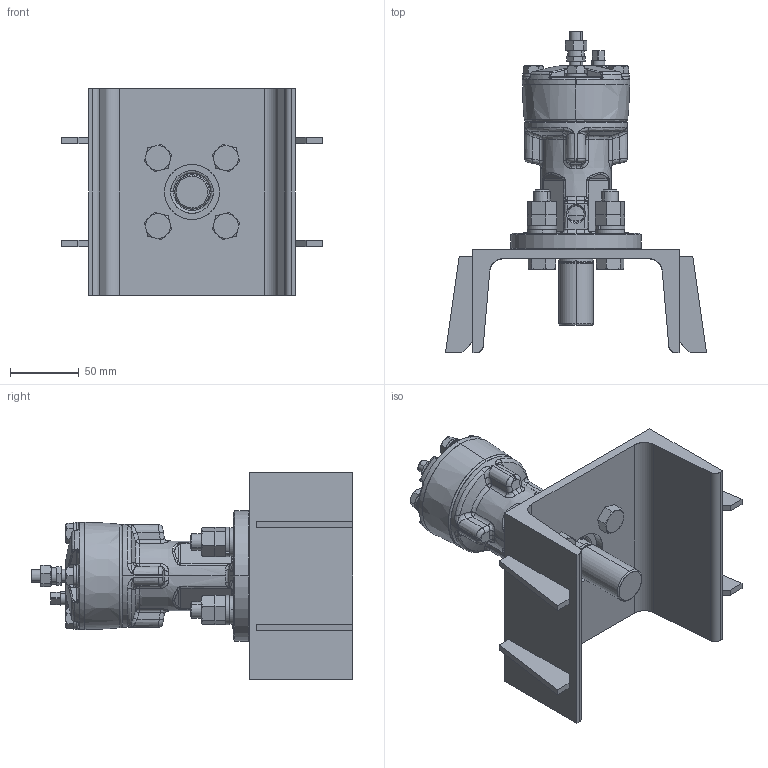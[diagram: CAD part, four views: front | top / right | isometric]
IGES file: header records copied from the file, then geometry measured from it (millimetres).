
Start section: SolidWorks IGES file using analytic representation for surfaces
Global section: file name: V:\WORK\08133\HP 寸法図\knocker\RKD40PB\test_K70000A-000 RKD40PB_defeature.IGS,15; native system: HSolidWorks 2018; preprocessor: SolidWorks 2018; author: n-udagawa; date: 230113.134527; units: millimetre
Bounding box: 190 x 234.21 x 150 mm (x, y, z)
Surface area: 152046.7 mm2 (no closed solid volume)
Topology: 0 solids, 0 shells, 865 faces, 12728 edges, 14744 vertices
Faces by surface type: bspline 561, revolution 304
